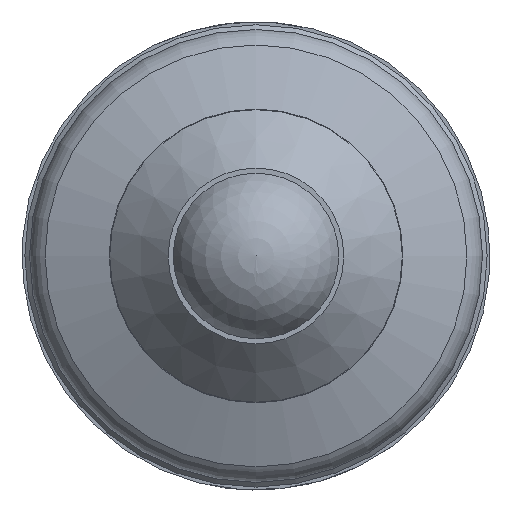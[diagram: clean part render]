
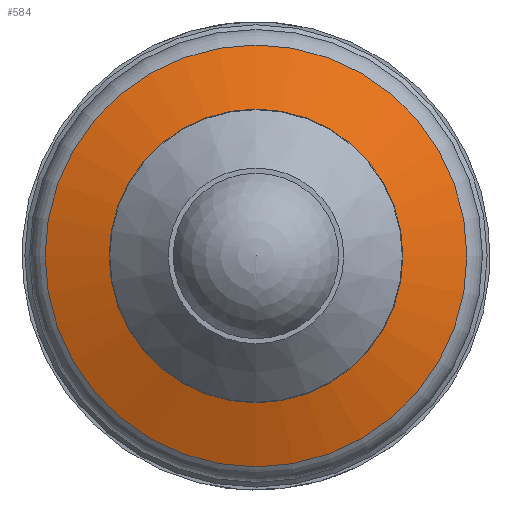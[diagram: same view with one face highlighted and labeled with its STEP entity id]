
A CAD part, left-side view. The second image highlights one B-rep face of the part: STEP entity #584.
In plain terms, the highlighted conical face has half-angle 69.522 degrees and reference radius 2.51 mm.
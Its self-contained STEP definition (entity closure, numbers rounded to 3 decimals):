
#584=ADVANCED_FACE('',(#800,#801),#802,.T.);
#800=FACE_OUTER_BOUND('',#1073,.T.);
#801=FACE_BOUND('',#1074,.T.);
#802=CONICAL_SURFACE('',#1075,2.51,1.213);
#1073=EDGE_LOOP('',(#1466));
#1074=EDGE_LOOP('',(#1467));
#1075=AXIS2_PLACEMENT_3D('',#1468,#1469,#1470);
#1466=ORIENTED_EDGE('',*,*,#1670,.T.);
#1467=ORIENTED_EDGE('',*,*,#1702,.F.);
#1468=CARTESIAN_POINT('',(0.0,0.,-4.413));
#1469=DIRECTION('',(-0.0,0.,1.0));
#1470=DIRECTION('',(0.0,-1.0,0.));
#1670=EDGE_CURVE('',#1794,#1794,#1795,.T.);
#1702=EDGE_CURVE('',#1858,#1858,#1859,.T.);
#1794=VERTEX_POINT('',#1982);
#1795=CIRCLE('',#1983,3.605);
#1858=VERTEX_POINT('',#2046);
#1859=CIRCLE('',#2047,2.51);
#1982=CARTESIAN_POINT('',(0.0,3.605,-4.004));
#1983=AXIS2_PLACEMENT_3D('',#2206,#2207,#2208);
#2046=CARTESIAN_POINT('',(0.0,2.51,-4.413));
#2047=AXIS2_PLACEMENT_3D('',#2302,#2303,#2304);
#2206=CARTESIAN_POINT('',(0.0,0.,-4.004));
#2207=DIRECTION('',(0.0,0.,-1.0));
#2208=DIRECTION('',(0.0,1.0,0.));
#2302=CARTESIAN_POINT('',(0.0,0.,-4.413));
#2303=DIRECTION('',(0.0,0.,-1.0));
#2304=DIRECTION('',(0.0,1.0,0.));
